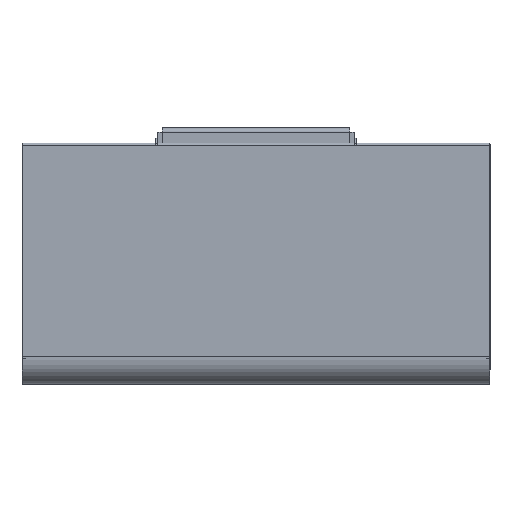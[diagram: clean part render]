
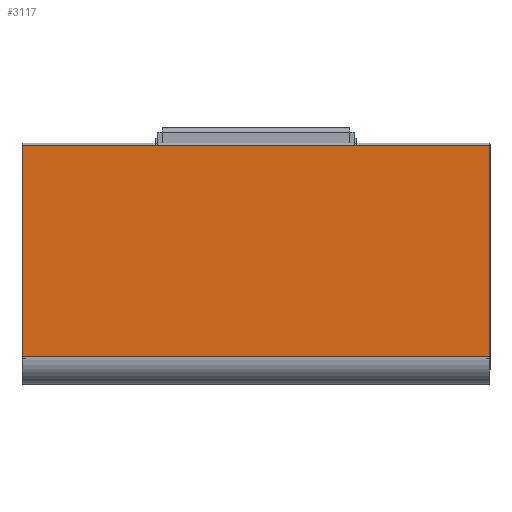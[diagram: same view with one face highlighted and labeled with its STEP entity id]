
A CAD part, left-side view. The second image highlights one B-rep face of the part: STEP entity #3117.
In plain terms, the highlighted planar face has unit normal (-1, 0, 0) as drawn and (0, 1, 0) by its records, which use the part's own axes.
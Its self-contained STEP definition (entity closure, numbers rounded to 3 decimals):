
#210=PLANE('',#3424);
#384=FACE_OUTER_BOUND('',#578,.T.);
#578=EDGE_LOOP('',(#2813,#2814,#2815,#2816));
#978=LINE('',#6029,#1266);
#980=LINE('',#6033,#1268);
#981=LINE('',#6035,#1269);
#982=LINE('',#6036,#1270);
#1266=VECTOR('',#4280,304.8);
#1268=VECTOR('',#4284,304.8);
#1269=VECTOR('',#4285,304.8);
#1270=VECTOR('',#4286,304.8);
#1555=VERTEX_POINT('',#6026);
#1556=VERTEX_POINT('',#6028);
#1557=VERTEX_POINT('',#6032);
#1558=VERTEX_POINT('',#6034);
#1986=EDGE_CURVE('',#1556,#1555,#978,.T.);
#1988=EDGE_CURVE('',#1557,#1555,#980,.T.);
#1989=EDGE_CURVE('',#1558,#1557,#981,.T.);
#1990=EDGE_CURVE('',#1556,#1558,#982,.T.);
#2813=ORIENTED_EDGE('',*,*,#1988,.F.);
#2814=ORIENTED_EDGE('',*,*,#1989,.F.);
#2815=ORIENTED_EDGE('',*,*,#1990,.F.);
#2816=ORIENTED_EDGE('',*,*,#1986,.T.);
#3117=ADVANCED_FACE('',(#384),#210,.T.);
#3424=AXIS2_PLACEMENT_3D('',#6031,#4282,#4283);
#4280=DIRECTION('',(1.,0.,0.));
#4282=DIRECTION('center_axis',(0.,1.,0.));
#4283=DIRECTION('ref_axis',(-1.,0.,0.));
#4284=DIRECTION('',(0.,0.,1.));
#4285=DIRECTION('',(1.,0.,0.));
#4286=DIRECTION('',(0.,0.,-1.));
#6026=CARTESIAN_POINT('',(200.,186.9,0.));
#6028=CARTESIAN_POINT('',(0.,186.9,0.));
#6029=CARTESIAN_POINT('',(0.,186.9,0.));
#6031=CARTESIAN_POINT('Origin',(200.,186.9,-89.954));
#6032=CARTESIAN_POINT('',(200.,186.9,-89.954));
#6033=CARTESIAN_POINT('',(200.,186.9,-89.954));
#6034=CARTESIAN_POINT('',(0.,186.9,-89.954));
#6035=CARTESIAN_POINT('',(0.,186.9,-89.954));
#6036=CARTESIAN_POINT('',(0.,186.9,0.));
